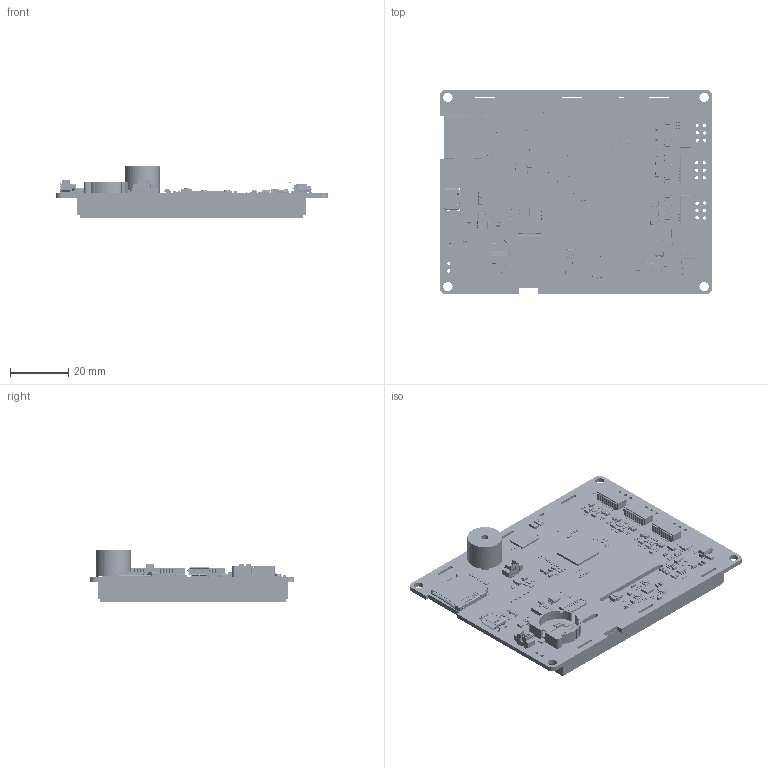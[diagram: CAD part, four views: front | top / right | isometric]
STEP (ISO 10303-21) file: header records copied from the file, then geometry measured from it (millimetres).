
FILE_DESCRIPTION(/* description */ ('Open CASCADE Model'),/* implementation_level */ '2;1');
FILE_NAME(/* name */ 'P64480-035T-L0101.stp',/* time_stamp */ '2025-10-13T08:45:28-03:00',/* author */ ('Reservaa'),/* organization */ ('Open CASCADE'),/* preprocessor_version */ 'ST-DEVELOPER v20',/* originating_system */ 'Autodesk Inventor 2024',/* authorisation */ 'Unknown');
FILE_SCHEMA (('AUTOMOTIVE_DESIGN { 1 0 10303 214 3 1 1 }'));
Products named in the file (256): PCB; Board; Open CASCADE STEP translator 7.5 1.1.1; R18; C26; C2; U7; User Library-SOT-23-6; TVS5; R13; R12; L1; User Library-srn4018; C25; C24; C20; U1; User Library-TSOT-23-6(S6); R2; R1; PL2; C11; C6; C5; C4; C3; C1; U5; User Library-MSOP-8 MSOP-8L; U2; User Library-CSYTAL-MC146; R81; R80; R79; R78; D21; D20; C19; C13; C12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
Assembly tree (442 placements, depth 6):
  PCB
    Board
      Open CASCADE STEP translator 7.5 1.1.1
    R18
      User Library-R-0402
    C26
      User Library-C0402-1
    C2
      User Library-C0402-1
    U7
      User Library-SOT-23-6
    TVS5
      User Library-??SOD-523
    R13
      User Library-R-0402
    R12
      User Library-R-0402
    L1
      User Library-srn4018
    C25
      Capacitor 0603 SMD
        User Library-cap0603_cap0603_body_??
        User Library-cap0603_pad_0603_??
    C24
      User Library-C0402-1
    C20
      User Library-C0402-1
    U1
      User Library-TSOT-23-6(S6)
    R2
      User Library-Res-0603
    R1
      User Library-Res-0603
    PL2
      User Library-SWPA252012
    C11
      Capacitor 0603 SMD
        User Library-cap0603_cap0603_body_??
        User Library-cap0603_pad_0603_??
    C6
      Capacitor 0603 SMD
        User Library-cap0603_cap0603_body_??
        User Library-cap0603_pad_0603_??
    C5
      Capacitor 0603 SMD
        User Library-cap0603_cap0603_body_??
        User Library-cap0603_pad_0603_??
    C4
      Capacitor 0603 SMD
        User Library-cap0603_cap0603_body_??
        User Library-cap0603_pad_0603_??
    C3
      Capacitor 0603 SMD
        User Library-cap0603_cap0603_body_??
        User Library-cap0603_pad_0603_??
    C1
      Capacitor 0603 SMD
        User Library-cap0603_cap0603_body_??
        User Library-cap0603_pad_0603_??
    U5
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Bounding box: 93 x 70 x 18.1 mm (x, y, z)
Volume: 45779.4 mm3; surface area: 42603 mm2
Topology: 560 solids, 816 shells, 34678 faces, 82631 edges, 46569 vertices
Faces by surface type: plane 13928, cylinder 9928, bspline 7111, sphere 3197, torus 503, cone 11
Full cylindrical faces by diameter (mm): 0.3 x2, 0.45 x9, 0.8 x8, 1 x3, 1.1 x20, 1.2 x2, 1.3 x3, 1.5 x1, 1.8 x5, 2 x1, 2.5 x1, 3.2 x4, 7.517 x1, 12 x1
Entity records: 291180 total; most frequent: CARTESIAN_POINT 95229, ORIENTED_EDGE 39815, DIRECTION 35230, EDGE_CURVE 19914, LINE 15600, VECTOR 15600, VERTEX_POINT 12888, AXIS2_PLACEMENT_3D 9815
